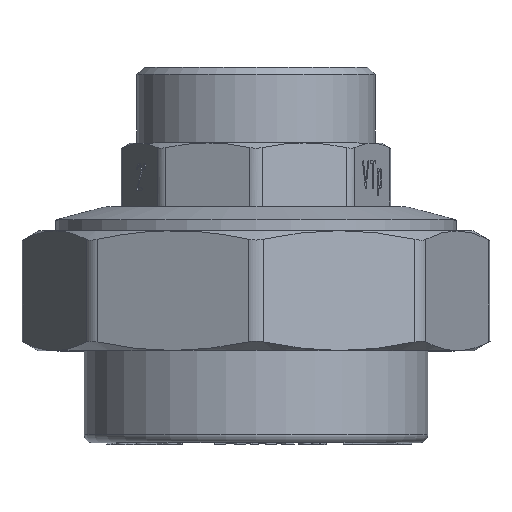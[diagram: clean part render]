
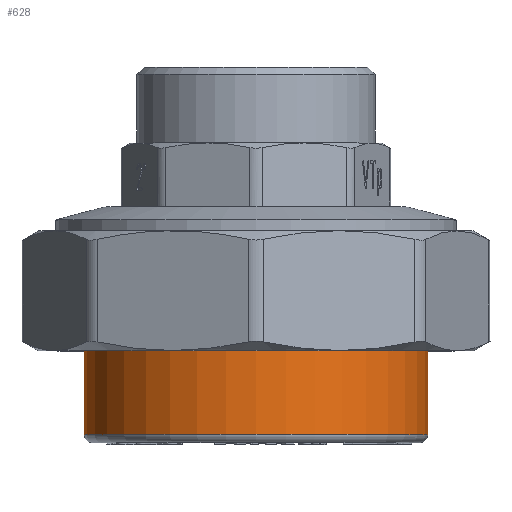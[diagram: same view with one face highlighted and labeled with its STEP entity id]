
A CAD part, top view. The second image highlights one B-rep face of the part: STEP entity #628.
In plain terms, the highlighted cylindrical face has radius 43 mm (diameter 86 mm), a full revolution.
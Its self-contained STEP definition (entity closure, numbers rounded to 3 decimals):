
#628=ADVANCED_FACE('',(#4494,#4496),#4498,.T.);
#4494=FACE_OUTER_BOUND('',#4495,.T.);
#4495=EDGE_LOOP('',(#10718));
#4496=FACE_OUTER_BOUND('',#4497,.T.);
#4497=EDGE_LOOP('',(#10719));
#4498=CYLINDRICAL_SURFACE('',#4499,43.);
#4499=AXIS2_PLACEMENT_3D('',#4500,#4501,#4502);
#4500=CARTESIAN_POINT('',(0.,0.,0.));
#4501=DIRECTION('',(0.,1.,0.));
#4502=DIRECTION('',(-1.,0.,0.));
#10718=ORIENTED_EDGE('',*,*,#14319,.F.);
#10719=ORIENTED_EDGE('',*,*,#14317,.T.);
#14317=EDGE_CURVE('',#17695,#17695,#17696,.T.);
#14319=EDGE_CURVE('',#17699,#17699,#17700,.T.);
#17695=VERTEX_POINT('',#24704);
#17696=CIRCLE('',#24705,43.);
#17699=VERTEX_POINT('',#24714);
#17700=CIRCLE('',#24715,43.);
#24704=CARTESIAN_POINT('',(-43.,2.,0.));
#24705=AXIS2_PLACEMENT_3D('',#24706,#24707,#24708);
#24706=CARTESIAN_POINT('',(0.,2.,0.));
#24707=DIRECTION('',(0.,1.,0.));
#24708=DIRECTION('',(-1.,0.,0.));
#24714=CARTESIAN_POINT('',(-43.,28.,0.));
#24715=AXIS2_PLACEMENT_3D('',#24716,#24717,#24718);
#24716=CARTESIAN_POINT('',(0.,28.,0.));
#24717=DIRECTION('',(0.,1.,0.));
#24718=DIRECTION('',(-1.,0.,0.));
